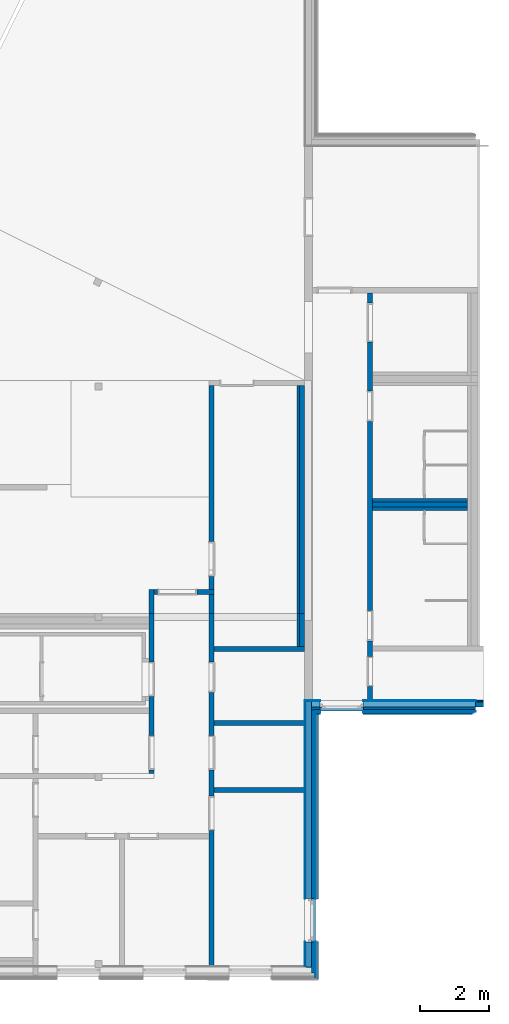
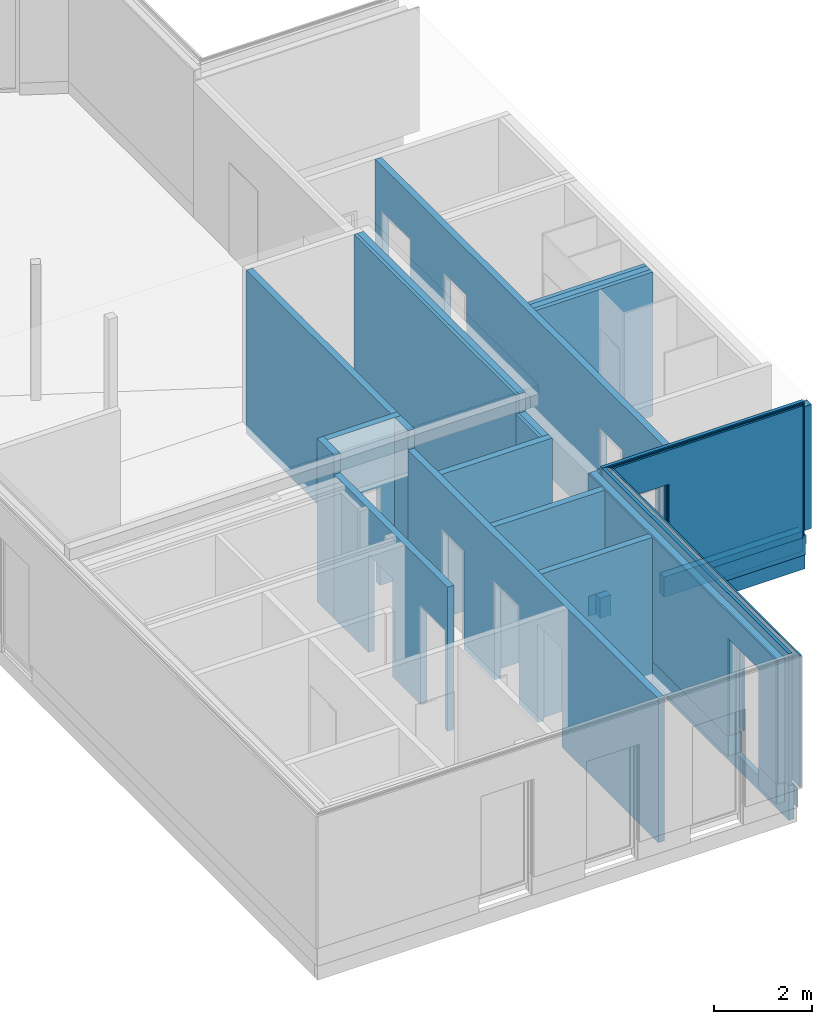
# One storey, part 3 of 23: 36 walls, 30 openings.
"""IFC4 building model written with IfcOpenShell, lengths in metres."""

import ifcopenshell
import ifcopenshell.guid

model = None  # the IFC model being written
_history = None  # IfcOwnerHistory: only IFC2X3 demands one
_inside = {}  # id of a spatial element -> (the spatial element, [elements in it])
_under = {}  # id of a project, library or spatial element -> (it, [spatial elements below it])
_declared = {}  # id of a project -> (the project, [libraries it declares])
_typed = {}  # id of a type object -> (the type object, [elements of that type])
_made_of = {}  # id of a material, layer set ... -> (it, [elements and type objects made of it])


def new_model(schema):
    """Start an empty IFC model of exactly this schema.

    Asked for "IFC4X3", IfcOpenShell would pick the latest addendum, in which some entities
    have other attributes; the version numbers below select the first issue.
    IFC2X3 requires an IfcOwnerHistory on every rooted entity: one is made here for all.
    """
    global model, _history
    if schema == "IFC4X3":
        model = ifcopenshell.file(schema_version=(4, 3, 0, 0))
    else:
        model = ifcopenshell.file(schema=schema)
    _inside.clear()
    _under.clear()
    _declared.clear()
    _typed.clear()
    _made_of.clear()
    _history = None
    if model.schema == "IFC2X3":
        org = make("IfcOrganization", Name="unknown")
        user = make(
            "IfcPersonAndOrganization",
            ThePerson=make("IfcPerson", FamilyName="unknown"),
            TheOrganization=org,
        )
        app = make(
            "IfcApplication",
            ApplicationDeveloper=org,
            Version="unknown",
            ApplicationFullName="unknown",
            ApplicationIdentifier="unknown",
        )
        _history = make(
            "IfcOwnerHistory",
            OwningUser=user,
            OwningApplication=app,
            ChangeAction="ADDED",
            CreationDate=0,
        )
    return model


def make(cls, **values):
    """One entity of the class cls with the attributes given. An attribute that is None is left unset."""
    return model.create_entity(
        cls, **{name: value for name, value in values.items() if value is not None}
    )


def entity(cls, *values):
    """Any entity or typed value of the class cls, its attributes in the order of the schema. None: left unset."""
    e = model.create_entity(cls)
    for i, value in enumerate(values):
        if value is not None:
            e[i] = value
    return e


def rooted(cls, **values):
    """An entity with a GlobalId (a new one), such as an element, a storey or a relation."""
    return make(cls, GlobalId=ifcopenshell.guid.new(), OwnerHistory=_history, **values)


def si_unit(unit_type, name, prefix=None):
    """IfcSIUnit, for example si_unit("LENGTHUNIT", "METRE", prefix="MILLI")."""
    return make("IfcSIUnit", UnitType=unit_type, Prefix=prefix, Name=name)


def converted_unit(unit_type, name, factor, base, dimensions=None, offset=None):
    """IfcConversionBasedUnit, such as the inch: factor (a typed value) times the base unit."""
    return make(
        "IfcConversionBasedUnit"
        if offset is None
        else "IfcConversionBasedUnitWithOffset",
        ConversionOffset=offset,
        Dimensions=None
        if dimensions is None
        else entity("IfcDimensionalExponents", *dimensions),
        UnitType=unit_type,
        Name=name,
        ConversionFactor=make(
            "IfcMeasureWithUnit", ValueComponent=factor, UnitComponent=base
        ),
    )


def derived_unit(unit_type, elements):
    """IfcDerivedUnit: a product of units, each with its exponent."""
    return make(
        "IfcDerivedUnit",
        Elements=[
            make("IfcDerivedUnitElement", Unit=unit, Exponent=power)
            for unit, power in elements
        ],
        UnitType=unit_type,
    )


def assignment(units):
    """IfcUnitAssignment: the units of a project."""
    return None if units is None else make("IfcUnitAssignment", Units=units)


def point(xyz):
    """IfcCartesianPoint."""
    return None if xyz is None else make("IfcCartesianPoint", Coordinates=xyz)


def direction(xyz):
    """IfcDirection."""
    return None if xyz is None else make("IfcDirection", DirectionRatios=xyz)


def frame(location, z_axis=None, x_axis=None):
    """IfcAxis2Placement3D, a coordinate frame: its origin and axes. An axis left out is left unset."""
    return make(
        "IfcAxis2Placement3D",
        Location=point(location),
        Axis=direction(z_axis),
        RefDirection=direction(x_axis),
    )


def frame_2d(location, x_axis=None):
    """IfcAxis2Placement2D, a coordinate frame in the plane: its origin and x axis."""
    return make(
        "IfcAxis2Placement2D", Location=point(location), RefDirection=direction(x_axis)
    )


def origin():
    """The frame at (0, 0, 0) with its axes left unset."""
    return frame((0.0, 0.0, 0.0))


def origin_with_axes():
    """The frame at (0, 0, 0) with the z axis (0, 0, 1) and the x axis (1, 0, 0) written out."""
    return frame((0.0, 0.0, 0.0), z_axis=(0.0, 0.0, 1.0), x_axis=(1.0, 0.0, 0.0))


def place(relative_to, where):
    """IfcLocalPlacement: puts the frame where relative to a parent placement (None: the world)."""
    return make(
        "IfcLocalPlacement", PlacementRelTo=relative_to, RelativePlacement=where
    )


def context(
    kind, dimensions, precision=None, world=None, true_north=None, identifier=None
):
    """IfcGeometricRepresentationContext, for example the 3D "Model" context."""
    return make(
        "IfcGeometricRepresentationContext",
        ContextIdentifier=identifier,
        ContextType=kind,
        CoordinateSpaceDimension=dimensions,
        Precision=precision,
        WorldCoordinateSystem=world,
        TrueNorth=true_north,
    )


def subcontext(parent, identifier, kind, view, scale=None):
    """IfcGeometricRepresentationSubContext, for example "Body" below "Model"."""
    return make(
        "IfcGeometricRepresentationSubContext",
        ContextIdentifier=identifier,
        ContextType=kind,
        ParentContext=parent,
        TargetScale=scale,
        TargetView=view,
    )


def project(units=None, contexts=None):
    """IfcProject with its units and contexts."""
    return rooted(
        "IfcProject",
        Name="project",
        RepresentationContexts=contexts,
        UnitsInContext=assignment(units),
    )


def spatial(cls, under=None, at=None, **own):
    """A site, building, storey or space (cls), placed at a placement, below another one or the project."""
    s = rooted(cls, ObjectPlacement=at, **own)
    if under is not None:
        _under.setdefault(under.id(), (under, []))[1].append(s)
    return s


def polyline(points):
    """IfcPolyline through the points."""
    return make("IfcPolyline", Points=[point(p) for p in points])


def profile(cls, at=None, kind="AREA", **sizes):
    """A parametric profile (cls). Its sizes go by their IFC names, for example OverallWidth=200.0."""
    return make(cls, ProfileType=kind, Position=at, **sizes)


def rectangle(**sizes):
    """IfcRectangleProfileDef."""
    return profile("IfcRectangleProfileDef", **sizes)


def outline(outer, holes=None, kind="AREA"):
    """IfcArbitraryClosedProfileDef: a profile drawn as a closed curve; with holes, ...WithVoids."""
    if holes is None:
        return make("IfcArbitraryClosedProfileDef", ProfileType=kind, OuterCurve=outer)
    return make(
        "IfcArbitraryProfileDefWithVoids",
        ProfileType=kind,
        OuterCurve=outer,
        InnerCurves=holes,
    )


def extrude(swept, where, along, depth):
    """IfcExtrudedAreaSolid: the profile swept, set in the frame where, extruded along a direction by depth."""
    return make(
        "IfcExtrudedAreaSolid",
        SweptArea=swept,
        Position=where,
        ExtrudedDirection=direction(along),
        Depth=depth,
    )


def shape(context_of_items, identifier, shape_type, items):
    """IfcShapeRepresentation: the items that make up one representation, for example the "Body"."""
    return make(
        "IfcShapeRepresentation",
        ContextOfItems=context_of_items,
        RepresentationIdentifier=identifier,
        RepresentationType=shape_type,
        Items=items,
    )


def material(Name=None, Category=None):
    """IfcMaterial."""
    return make("IfcMaterial", Name=Name, Category=Category)


def made_of(thing, what):
    """Note that an element or type object is made of a material, layer set ...; save() writes the relation."""
    if what is not None:
        _made_of.setdefault(what.id(), (what, []))[1].append(thing)
    return thing


def element(
    cls,
    number,
    at=None,
    inside=None,
    cuts=None,
    type_object=None,
    material=None,
    context=None,
    identifier="Body",
    shape_type=None,
    held_by="IfcProductDefinitionShape",
    body=None,
    shapes=None,
    **own,
):
    """One element of the class cls, such as IfcWall. Its Tag is "e" and its number.

    at: its placement. inside: the storey or other place that contains it. cuts: it is an
    opening in that element (IfcRelVoidsElement). A single representation is given by context,
    identifier, shape_type and body (its items); several are given by shapes. held_by: the class
    of the entity that holds the representations. save() writes the other relations.
    """
    e = rooted(cls, Tag="e%d" % number, ObjectPlacement=at, **own)
    if body is not None:
        shapes = [shape(context, identifier, shape_type, body)]
    if shapes is not None:
        e.Representation = make(held_by, Representations=shapes)
    if inside is not None:
        _inside.setdefault(inside.id(), (inside, []))[1].append(e)
    if cuts is not None:
        rooted(
            "IfcRelVoidsElement", RelatingBuildingElement=cuts, RelatedOpeningElement=e
        )
    if type_object is not None:
        _typed.setdefault(type_object.id(), (type_object, []))[1].append(e)
    return made_of(e, material)


def aggregate(whole, parts):
    """IfcRelAggregates: a whole, such as a stair, and the parts it consists of."""
    return rooted("IfcRelAggregates", RelatingObject=whole, RelatedObjects=parts)


def save(model, path):
    """Write the relations noted so far, then the file.

    IfcRelAggregates (storeys below a building ...), IfcRelContainedInSpatialStructure (elements
    in a storey), IfcRelDefinesByType, IfcRelAssociatesMaterial and IfcRelDeclares: one each for
    every whole, place, type object, material and project.
    """
    for whole, parts in _under.values():
        aggregate(whole, parts)
    for where, things in _inside.values():
        rooted(
            "IfcRelContainedInSpatialStructure",
            RelatedElements=things,
            RelatingStructure=where,
        )
    for kind, things in _typed.values():
        rooted("IfcRelDefinesByType", RelatedObjects=things, RelatingType=kind)
    for what, things in _made_of.values():
        rooted("IfcRelAssociatesMaterial", RelatedObjects=things, RelatingMaterial=what)
    for by, libraries in _declared.values():
        rooted("IfcRelDeclares", RelatingContext=by, RelatedDefinitions=libraries)
    model.write(path)


model = new_model("IFC4")

# Units and contexts
model_context = context("Model", 3, precision=1e-05, world=origin())
body_context = subcontext(model_context, "Body", "Model", "MODEL_VIEW")
ifc_project = project(units=[si_unit("LENGTHUNIT", "METRE"), si_unit("AREAUNIT", "SQUARE_METRE"), si_unit("VOLUMEUNIT", "CUBIC_METRE"), si_unit("MASSUNIT", "GRAM", prefix="KILO"), converted_unit("PLANEANGLEUNIT", "DEGREE", entity("IfcPlaneAngleMeasure", 0.0174532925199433), si_unit("PLANEANGLEUNIT", "RADIAN"), dimensions=[0, 0, 0, 0, 0, 0, 0]), derived_unit("THERMALTRANSMITTANCEUNIT", [(si_unit("POWERUNIT", "WATT"), 1), (si_unit("THERMODYNAMICTEMPERATUREUNIT", "KELVIN"), -1), (si_unit("LENGTHUNIT", "METRE"), -2)]), derived_unit("VOLUMETRICFLOWRATEUNIT", [(si_unit("LENGTHUNIT", "METRE"), 3), (converted_unit("TIMEUNIT", "hour", entity("IfcTimeMeasure", 3600.0), si_unit("TIMEUNIT", "SECOND"), dimensions=[0, 0, 1, 0, 0, 0, 0]), -1), (si_unit("LENGTHUNIT", "METRE"), -1)])], contexts=[model_context])

# Site, building, storey
site_placement = place(None, origin())
site = spatial("IfcSite", under=ifc_project, at=site_placement, Name="Psychiatrie Neubau Wunstorf", CompositionType="ELEMENT")
building_placement = place(site_placement, origin())
building = spatial("IfcBuilding", under=site, at=building_placement, Name="Neubau H1 Sozialzentrum", CompositionType="ELEMENT")
storey_placement = place(building_placement, frame((0.0, 0.0, 0.7)))
storey = spatial("IfcBuildingStorey", under=building, at=storey_placement, Name="H1 Ebene 0", CompositionType="ELEMENT", Elevation=0.7)

# Wall, opening
ifc_material_1 = material(Name="WA-LB")
wall_1_placement = place(storey_placement, frame((-5.16652746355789, 11.9562464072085, 0.3), z_axis=(0.0, 0.0, 1.0), x_axis=(3.02741713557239e-07, -0.999999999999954, 0.0)))
wall_1 = element("IfcWall", 1, at=wall_1_placement, inside=storey, material=ifc_material_1, context=body_context, shape_type="SweptSolid", body=[
    extrude(outline(polyline([(-7.69392504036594, 2.32927205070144e-06), (0.0, 2.32927205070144e-06), (1.08994292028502e-08, 0.036002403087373), (-7.69392502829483, 0.0360022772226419), (-7.69392504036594, 2.32927205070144e-06)])), frame((7.69392504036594, -2.32927205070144e-06, 0.0), z_axis=(0.0, 0.0, 1.0), x_axis=(1.0, 0.0, 0.0)), (0.0, 0.0, 1.0), 3.1),
])
opening_1_placement = place(wall_1_placement, frame((5.73000000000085, 0.0, -0.5), z_axis=(2.52637124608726e-14, 1.0, 0.0), x_axis=(0.0, 0.0, 1.0)))
element("IfcOpeningElement", 2, at=opening_1_placement, cuts=wall_1, Name="Türöffnung", ObjectType="Opening", context=body_context, shape_type="SweptSolid", body=[
    extrude(outline(polyline([(2.95, 1.26), (2.95, 0.0), (0.0, 0.0), (0.0, 1.26), (2.95, 1.26)])), origin_with_axes(), (0.0, 0.0, 1.0), 0.0360000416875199),
])

ifc_material_2 = material(Name="WA-HD")
wall_2_placement = place(storey_placement, frame((-5.13052750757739, 11.9562464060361, 0.3), z_axis=(0.0, 0.0, 1.0), x_axis=(3.18028107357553e-07, -0.999999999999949, 0.0)))
wall_2 = element("IfcWall", 3, at=wall_2_placement, inside=storey, material=ifc_material_2, context=body_context, shape_type="SweptSolid", body=[
    extrude(outline(polyline([(-7.72992503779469, 2.45833342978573e-06), (0.0, 2.45833342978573e-06), (5.08853048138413e-08, 0.160002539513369), (-7.72992498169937, 0.160002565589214), (-7.72992503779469, 2.45833342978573e-06)])), frame((7.72992503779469, -2.45833342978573e-06, 0.0), z_axis=(0.0, 0.0, 1.0), x_axis=(1.0, 0.0, 0.0)), (0.0, 0.0, 1.0), 3.1),
])
opening_2_placement = place(wall_2_placement, frame((5.72999998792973, 0.0, -0.5), z_axis=(0.0, 1.0, 0.0), x_axis=(0.0, 0.0, 1.0)))
element("IfcOpeningElement", 4, at=opening_2_placement, cuts=wall_2, Name="Türöffnung", ObjectType="Opening", context=body_context, shape_type="SweptSolid", body=[
    extrude(outline(polyline([(2.95, 1.26), (2.95, 0.0), (0.0, 0.0), (0.0, 1.26), (2.95, 1.26)])), origin_with_axes(), (0.0, 0.0, 1.0), 0.160000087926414),
])

ifc_material_3 = material(Name="WA-DL")
wall_3_placement = place(storey_placement, frame((-4.97052732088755, 11.7162464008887, 0.3), z_axis=(0.0, 0.0, 1.0), x_axis=(3.14002791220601e-07, -0.999999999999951, 0.0)))
wall_3 = element("IfcWall", 5, at=wall_3_placement, inside=storey, material=ifc_material_3, context=body_context, shape_type="SweptSolid", body=[
    extrude(outline(polyline([(-7.64992435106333, 2.40209759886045e-06), (0.0, 2.40209759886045e-06), (2.51209874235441e-08, 0.080002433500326), (-7.64992432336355, 0.08000246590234), (-7.64992435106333, 2.40209759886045e-06)])), frame((7.64992435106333, -2.40209759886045e-06, 0.0), z_axis=(0.0, 0.0, 1.0), x_axis=(1.0, 0.0, 0.0)), (0.0, 0.0, 1.0), 3.3),
])
opening_3_placement = place(wall_3_placement, frame((5.48999993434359, 0.0, -0.5), z_axis=(0.0, 1.0, 0.0), x_axis=(0.0, 0.0, 1.0)))
element("IfcOpeningElement", 6, at=opening_3_placement, cuts=wall_3, Name="Türöffnung", ObjectType="Opening", context=body_context, shape_type="SweptSolid", body=[
    extrude(outline(polyline([(2.95, 1.26), (2.95, 0.0), (0.0, 0.0), (0.0, 1.26), (2.95, 1.26)])), origin_with_axes(), (0.0, 0.0, 1.0), 0.0800000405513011),
])

ifc_material_4 = material(Name="WA-HS")
wall_4_placement = place(storey_placement, frame((-4.80652716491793, 11.5902463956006, 0.3), z_axis=(0.0, 0.0, 1.0), x_axis=(3.10154807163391e-07, -0.999999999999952, 0.0)))
wall_4 = element("IfcWall", 7, at=wall_4_placement, inside=storey, material=ifc_material_4, context=body_context, shape_type="SweptSolid", body=[
    extrude(outline(polyline([(-7.68792363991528, 2.38444647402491e-06), (0.0, 2.38444647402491e-06), (1.30272384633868e-08, 0.0420023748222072), (-7.68792362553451, 0.0420024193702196), (-7.68792363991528, 2.38444647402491e-06)])), frame((7.68792363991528, -2.38444647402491e-06, 0.0), z_axis=(0.0, 0.0, 1.0), x_axis=(1.0, 0.0, 0.0)), (0.0, 0.0, 1.0), 3.3),
])
opening_4_placement = place(wall_4_placement, frame((5.36399987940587, 0.0, -0.5), z_axis=(0.0, 1.0, 0.0), x_axis=(0.0, 0.0, 1.0)))
element("IfcOpeningElement", 8, at=opening_4_placement, cuts=wall_4, Name="Türöffnung", ObjectType="Opening", context=body_context, shape_type="SweptSolid", body=[
    extrude(outline(polyline([(2.95, 1.26), (2.95, 0.0), (0.0, 0.0), (0.0, 1.26), (2.95, 1.26)])), origin_with_axes(), (0.0, 0.0, 1.0), 0.0420000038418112),
])

ifc_material_5 = material(Name="WA-LB")
wall_5_placement = place(storey_placement, frame((0.0299999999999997, 11.9922462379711, 0.3), z_axis=(0.0, 0.0, 1.0), x_axis=(-0.999999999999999, 3.25674105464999e-08, 0.0)))
wall_5 = element("IfcWall", 9, at=wall_5_placement, inside=storey, material=ifc_material_5, context=body_context, shape_type="SweptSolid", body=[
    extrude(rectangle(XDim=4.96452529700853, YDim=0.0359999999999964, at=frame_2d((2.48226264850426, 0.0179999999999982), x_axis=(1.0, 0.0))), origin_with_axes(), (0.0, 0.0, 1.0), 3.1),
])
opening_5_placement = place(wall_5_placement, frame((4.74452711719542, 0.0359999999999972, -0.5), z_axis=(-7.52606865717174e-10, -1.0, 0.0), x_axis=(0.0, 0.0, 1.0)))
element("IfcOpeningElement", 10, at=opening_5_placement, cuts=wall_5, Name="Türöffnung", ObjectType="Opening", context=body_context, shape_type="SweptSolid", body=[
    extrude(outline(polyline([(2.95, 1.26000000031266), (2.95, 0.0), (0.0, 0.0), (0.0, 1.26000000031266), (2.95, 1.26000000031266)])), origin_with_axes(), (0.0, 0.0, 1.0), 0.0359999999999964),
])

ifc_material_6 = material(Name="WA-HD")
wall_6_placement = place(storey_placement, frame((0.0299999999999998, 11.9562462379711, 0.3), z_axis=(0.0, 0.0, 1.0), x_axis=(-0.999999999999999, 3.25696625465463e-08, 0.0)))
wall_6 = element("IfcWall", 11, at=wall_6_placement, inside=storey, material=ifc_material_6, context=body_context, shape_type="SweptSolid", body=[
    extrude(rectangle(XDim=5.0005274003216, YDim=0.160000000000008, at=frame_2d((2.5002637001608, 0.080000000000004), x_axis=(1.0, 0.0))), origin_with_axes(), (0.0, 0.0, 1.0), 3.1),
])
opening_6_placement = place(wall_6_placement, frame((4.74452711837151, 0.160000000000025, -0.5), z_axis=(-7.50344497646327e-10, -1.0, 0.0), x_axis=(0.0, 0.0, 1.0)))
element("IfcOpeningElement", 12, at=opening_6_placement, cuts=wall_6, Name="Türöffnung", ObjectType="Opening", context=body_context, shape_type="SweptSolid", body=[
    extrude(outline(polyline([(2.95, 1.26000000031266), (2.95, 0.0), (0.0, 0.0), (0.0, 1.26000000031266), (2.95, 1.26000000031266)])), origin_with_axes(), (0.0, 0.0, 1.0), 0.160000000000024),
])

ifc_material_7 = material(Name="WA-DL")
wall_7_placement = place(storey_placement, frame((-0.19, 11.7962462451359, 0.3), z_axis=(0.0, 0.0, 1.0), x_axis=(-0.999999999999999, 3.25806610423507e-08, 0.0)))
wall_7 = element("IfcWall", 13, at=wall_7_placement, inside=storey, material=ifc_material_7, context=body_context, shape_type="SweptSolid", body=[
    extrude(rectangle(XDim=4.78052734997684, YDim=0.0800000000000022, at=frame_2d((2.39026367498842, 0.0400000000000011), x_axis=(1.0, 0.0))), origin_with_axes(), (0.0, 0.0, 1.0), 3.3),
])
opening_7_placement = place(wall_7_placement, frame((4.52452712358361, 0.0799999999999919, -0.5), z_axis=(-7.39350980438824e-10, -1.0, 0.0), x_axis=(0.0, 0.0, 1.0)))
element("IfcOpeningElement", 14, at=opening_7_placement, cuts=wall_7, Name="Türöffnung", ObjectType="Opening", context=body_context, shape_type="SweptSolid", body=[
    extrude(outline(polyline([(2.95, 1.26000000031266), (2.95, 0.0), (0.0, 0.0), (0.0, 1.26000000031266), (2.95, 1.26000000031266)])), origin_with_axes(), (0.0, 0.0, 1.0), 0.0799999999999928),
])

ifc_material_8 = material(Name="WA-LB")
wall_8_placement = place(storey_placement, frame((-0.2, 11.7162462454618, 0.3), z_axis=(0.0, 0.0, 1.0), x_axis=(-0.999999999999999, 3.25863785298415e-08, 0.0)))
wall_8 = element("IfcWall", 15, at=wall_8_placement, inside=storey, material=ifc_material_8, context=body_context, shape_type="SweptSolid", body=[
    extrude(rectangle(XDim=4.69052725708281, YDim=0.0359999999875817, at=frame_2d((2.3452636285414, 0.0179999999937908), x_axis=(1.0, 0.0))), origin_with_axes(), (0.0, 0.0, 1.0), 3.3),
])
opening_8_placement = place(wall_8_placement, frame((4.51452712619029, 0.0359999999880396, -0.5), z_axis=(-7.33659059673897e-10, -1.0, 0.0), x_axis=(0.0, 0.0, 1.0)))
element("IfcOpeningElement", 16, at=opening_8_placement, cuts=wall_8, Name="Türöffnung", ObjectType="Opening", context=body_context, shape_type="SweptSolid", body=[
    extrude(outline(polyline([(2.95, 1.26000000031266), (2.95, 0.0), (0.0, 0.0), (0.0, 1.26000000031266), (2.95, 1.26000000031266)])), origin_with_axes(), (0.0, 0.0, 1.0), 0.0359999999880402),
])

ifc_material_9 = material(Name="WA-KL")
wall_9_placement = place(storey_placement, frame((-0.225, 11.6802462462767, 0.3), z_axis=(0.0, 0.0, 1.0), x_axis=(-0.999999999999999, 3.25889958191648e-08, 0.0)))
wall_9 = element("IfcWall", 17, at=wall_9_placement, inside=storey, material=ifc_material_9, context=body_context, shape_type="SweptSolid", body=[
    extrude(rectangle(XDim=4.62952721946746, YDim=0.0239999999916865, at=frame_2d((2.31476360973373, 0.0119999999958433), x_axis=(1.0, 0.0))), origin_with_axes(), (0.0, 0.0, 1.0), 3.3),
])
opening_9_placement = place(wall_9_placement, frame((4.48952712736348, 0.0239999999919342, -0.5), z_axis=(-7.31044262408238e-10, -1.0, 0.0), x_axis=(0.0, 0.0, 1.0)))
element("IfcOpeningElement", 18, at=opening_9_placement, cuts=wall_9, Name="Türöffnung", ObjectType="Opening", context=body_context, shape_type="SweptSolid", body=[
    extrude(outline(polyline([(2.95, 1.26000000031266), (2.95, 0.0), (0.0, 0.0), (0.0, 1.26000000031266), (2.95, 1.26000000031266)])), origin_with_axes(), (0.0, 0.0, 1.0), 0.0239999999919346),
])

ifc_material_10 = material(Name="WA-TL")
wall_10_placement = place(storey_placement, frame((-0.25, 11.6562462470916, 0.3), z_axis=(0.0, 0.0, 1.0), x_axis=(-0.999999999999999, 3.25907732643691e-08, 0.0)))
wall_10 = element("IfcWall", 19, at=wall_10_placement, inside=storey, material=ifc_material_10, context=body_context, shape_type="SweptSolid", body=[
    extrude(rectangle(XDim=4.58052719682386, YDim=0.0239999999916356, at=frame_2d((2.29026359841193, 0.0119999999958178), x_axis=(1.0, 0.0))), origin_with_axes(), (0.0, 0.0, 1.0), 3.3),
])
opening_10_placement = place(wall_10_placement, frame((4.46452712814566, 0.0239999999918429, -0.5), z_axis=(-7.29263168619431e-10, -1.0, 0.0), x_axis=(0.0, 0.0, 1.0)))
element("IfcOpeningElement", 20, at=opening_10_placement, cuts=wall_10, Name="Türöffnung", ObjectType="Opening", context=body_context, shape_type="SweptSolid", body=[
    extrude(outline(polyline([(2.95, 1.26000000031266), (2.95, 0.0), (0.0, 0.0), (0.0, 1.26000000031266), (2.95, 1.26000000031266)])), origin_with_axes(), (0.0, 0.0, 1.0), 0.0239999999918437),
])

ifc_material_11 = material(Name="WA-HS")
wall_11_placement = place(storey_placement, frame((-0.292, 11.6322462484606, 0.3), z_axis=(0.0, 0.0, 1.0), x_axis=(-0.999999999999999, 3.25925683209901e-08, 0.0)))
wall_11 = element("IfcWall", 21, at=wall_11_placement, inside=storey, material=ifc_material_11, context=body_context, shape_type="SweptSolid", body=[
    extrude(rectangle(XDim=4.51452718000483, YDim=0.0420000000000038, at=frame_2d((2.25726359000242, 0.0210000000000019), x_axis=(1.0, 0.0))), origin_with_axes(), (0.0, 0.0, 1.0), 3.3),
])
opening_11_placement = place(wall_11_placement, frame((4.42252712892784, 0.0420000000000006, -0.5), z_axis=(-7.27444178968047e-10, -1.0, 0.0), x_axis=(0.0, 0.0, 1.0)))
element("IfcOpeningElement", 22, at=opening_11_placement, cuts=wall_11, Name="Türöffnung", ObjectType="Opening", context=body_context, shape_type="SweptSolid", body=[
    extrude(outline(polyline([(2.95, 1.26000000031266), (2.95, 0.0), (0.0, 0.0), (0.0, 1.26000000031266), (2.95, 1.26000000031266)])), origin_with_axes(), (0.0, 0.0, 1.0), 0.042),
])

ifc_material_12 = material(Name="WA-LB")
wall_12_placement = place(storey_placement, frame((-0.19, 11.9922463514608, -0.2), z_axis=(0.0, 0.0, 1.0), x_axis=(-1.0, 0.0, 0.0)))
wall_12 = element("IfcWall", 23, at=wall_12_placement, inside=storey, material=ifc_material_12, context=body_context, shape_type="SweptSolid", body=[
    extrude(rectangle(XDim=4.95552559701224, YDim=0.0209999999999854, at=frame_2d((2.47776279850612, 0.0104999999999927), x_axis=(1.0, 0.0))), origin_with_axes(), (0.0, 0.0, 1.0), 0.5),
])
opening_12_placement = place(wall_12_placement, frame((4.52452711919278, 0.0209999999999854, 0.0), z_axis=(0.0, -1.0, 0.0), x_axis=(0.0, 0.0, 1.0)))
element("IfcOpeningElement", 24, at=opening_12_placement, cuts=wall_12, Name="Wanddurchbruch", ObjectType="Opening", context=body_context, shape_type="SweptSolid", body=[
    extrude(outline(polyline([(0.5, 1.26000000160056), (0.5, 0.0), (0.0, 0.0), (0.0, 1.26000000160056), (0.5, 1.26000000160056)])), origin_with_axes(), (0.0, 0.0, 1.0), 0.0209999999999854),
])

ifc_material_13 = material(Name="WA-STB")
wall_13_placement = place(storey_placement, frame((-0.19, 11.9712463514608, -0.2), z_axis=(0.0, 0.0, 1.0), x_axis=(-1.0, 0.0, 0.0)))
wall_13 = element("IfcWall", 25, at=wall_13_placement, inside=storey, material=ifc_material_13, context=body_context, shape_type="SweptSolid", body=[
    extrude(rectangle(XDim=4.78052559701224, YDim=0.175, at=frame_2d((2.39026279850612, 0.0875), x_axis=(1.0, 0.0))), origin_with_axes(), (0.0, 0.0, 1.0), 0.5),
])
opening_13_placement = place(wall_13_placement, frame((4.52452711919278, 0.175, 0.0), z_axis=(0.0, -1.0, 0.0), x_axis=(0.0, 0.0, 1.0)))
element("IfcOpeningElement", 26, at=opening_13_placement, cuts=wall_13, Name="Wanddurchbruch", ObjectType="Opening", context=body_context, shape_type="SweptSolid", body=[
    extrude(outline(polyline([(0.5, 1.26000000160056), (0.5, 0.0), (0.0, 0.0), (0.0, 1.26000000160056), (0.5, 1.26000000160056)])), origin_with_axes(), (0.0, 0.0, 1.0), 0.175),
])

ifc_material_14 = material(Name="WA-DE")
wall_14_placement = place(storey_placement, frame((-0.19, 11.7962463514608, -0.56), z_axis=(0.0, 0.0, 1.0), x_axis=(-1.0, 0.0, 0.0)))
wall_14 = element("IfcWall", 27, at=wall_14_placement, inside=storey, material=ifc_material_14, context=body_context, shape_type="SweptSolid", body=[
    extrude(rectangle(XDim=4.66052559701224, YDim=0.120000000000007, at=frame_2d((2.33026279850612, 0.0600000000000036), x_axis=(1.0, 0.0))), origin_with_axes(), (0.0, 0.0, 1.0), 0.86),
])
opening_14_placement = place(wall_14_placement, frame((4.52452711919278, 0.120000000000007, 0.36), z_axis=(0.0, -1.0, 0.0), x_axis=(0.0, 0.0, 1.0)))
element("IfcOpeningElement", 28, at=opening_14_placement, cuts=wall_14, Name="Wanddurchbruch", ObjectType="Opening", context=body_context, shape_type="SweptSolid", body=[
    extrude(outline(polyline([(0.5, 1.26000000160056), (0.5, 0.0), (0.0, 0.0), (0.0, 1.26000000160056), (0.5, 1.26000000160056)])), origin_with_axes(), (0.0, 0.0, 1.0), 0.120000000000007),
])

ifc_material_15 = material(Name="WA-LB")
wall_15_placement = place(storey_placement, frame((-0.19, 11.6762463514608, -0.2), z_axis=(0.0, 0.0, 1.0), x_axis=(-1.0, 0.0, 0.0)))
wall_15 = element("IfcWall", 29, at=wall_15_placement, inside=storey, material=ifc_material_15, context=body_context, shape_type="SweptSolid", body=[
    extrude(rectangle(XDim=4.64552559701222, YDim=0.0150000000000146, at=frame_2d((2.32276279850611, 0.00750000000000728), x_axis=(1.0, 0.0))), origin_with_axes(), (0.0, 0.0, 1.0), 0.5),
])
opening_15_placement = place(wall_15_placement, frame((4.52452711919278, 0.0150000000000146, 0.0), z_axis=(0.0, -1.0, 0.0), x_axis=(0.0, 0.0, 1.0)))
element("IfcOpeningElement", 30, at=opening_15_placement, cuts=wall_15, Name="Wanddurchbruch", ObjectType="Opening", context=body_context, shape_type="SweptSolid", body=[
    extrude(outline(polyline([(0.5, 1.26000000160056), (0.5, 0.0), (0.0, 0.0), (0.0, 1.26000000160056), (0.5, 1.26000000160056)])), origin_with_axes(), (0.0, 0.0, 1.0), 0.0150000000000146),
])

ifc_material_16 = material(Name="WA-LB")
wall_16_placement = place(storey_placement, frame((-5.16652559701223, 11.9922463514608, -0.2), z_axis=(0.0, 0.0, 1.0), x_axis=(0.0, -1.0, 0.0)))
wall_16 = element("IfcWall", 31, at=wall_16_placement, inside=storey, material=ifc_material_16, context=body_context, shape_type="SweptSolid", body=[
    extrude(rectangle(XDim=7.72992430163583, YDim=0.0209999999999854, at=frame_2d((3.86496215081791, 0.0104999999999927), x_axis=(1.0, 0.0))), origin_with_axes(), (0.0, 0.0, 1.0), 0.5),
])
opening_16_placement = place(wall_16_placement, frame((7.02599992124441, 0.0209999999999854, 0.0), z_axis=(0.0, -1.0, 0.0), x_axis=(0.0, 0.0, 1.0)))
element("IfcOpeningElement", 32, at=opening_16_placement, cuts=wall_16, Name="Wanddurchbruch", ObjectType="Opening", context=body_context, shape_type="SweptSolid", body=[
    extrude(outline(polyline([(0.5, 1.25999999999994), (0.5, 0.0), (0.0, 0.0), (0.0, 1.25999999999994), (0.5, 1.25999999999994)])), origin_with_axes(), (0.0, 0.0, 1.0), 0.0209999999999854),
])

ifc_material_17 = material(Name="WA-STB")
wall_17_placement = place(storey_placement, frame((-5.14552559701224, 11.9712463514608, -0.2), z_axis=(0.0, 0.0, 1.0), x_axis=(0.0, -1.0, 0.0)))
wall_17 = element("IfcWall", 33, at=wall_17_placement, inside=storey, material=ifc_material_17, context=body_context, shape_type="SweptSolid", body=[
    extrude(rectangle(XDim=7.72992430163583, YDim=0.175, at=frame_2d((3.86496215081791, 0.0875), x_axis=(1.0, 0.0))), origin_with_axes(), (0.0, 0.0, 1.0), 0.5),
])
opening_17_placement = place(wall_17_placement, frame((7.00499992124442, 0.175, 0.0), z_axis=(0.0, -1.0, 0.0), x_axis=(0.0, 0.0, 1.0)))
element("IfcOpeningElement", 34, at=opening_17_placement, cuts=wall_17, Name="Wanddurchbruch", ObjectType="Opening", context=body_context, shape_type="SweptSolid", body=[
    extrude(outline(polyline([(0.5, 1.25999999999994), (0.5, 0.0), (0.0, 0.0), (0.0, 1.25999999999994), (0.5, 1.25999999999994)])), origin_with_axes(), (0.0, 0.0, 1.0), 0.175),
])

ifc_material_18 = material(Name="WA-DE")
wall_18_placement = place(storey_placement, frame((-4.97052559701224, 11.7962463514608, -0.56), z_axis=(0.0, 0.0, 1.0), x_axis=(0.0, -1.0, 0.0)))
wall_18 = element("IfcWall", 35, at=wall_18_placement, inside=storey, material=ifc_material_18, context=body_context, shape_type="SweptSolid", body=[
    extrude(rectangle(XDim=7.72992430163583, YDim=0.120000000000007, at=frame_2d((3.86496215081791, 0.0600000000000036), x_axis=(1.0, 0.0))), origin_with_axes(), (0.0, 0.0, 1.0), 0.86),
])
opening_18_placement = place(wall_18_placement, frame((6.82999992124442, 0.120000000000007, 0.36), z_axis=(0.0, -1.0, 0.0), x_axis=(0.0, 0.0, 1.0)))
element("IfcOpeningElement", 36, at=opening_18_placement, cuts=wall_18, Name="Wanddurchbruch", ObjectType="Opening", context=body_context, shape_type="SweptSolid", body=[
    extrude(outline(polyline([(0.5, 1.25999999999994), (0.5, 0.0), (0.0, 0.0), (0.0, 1.25999999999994), (0.5, 1.25999999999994)])), origin_with_axes(), (0.0, 0.0, 1.0), 0.120000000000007),
])

ifc_material_19 = material(Name="WA-LB")
wall_19_placement = place(storey_placement, frame((-4.85052559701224, 11.6762463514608, -0.2), z_axis=(0.0, 0.0, 1.0), x_axis=(0.0, -1.0, 0.0)))
wall_19 = element("IfcWall", 37, at=wall_19_placement, inside=storey, material=ifc_material_19, context=body_context, shape_type="SweptSolid", body=[
    extrude(rectangle(XDim=7.72992430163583, YDim=0.0150000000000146, at=frame_2d((3.86496215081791, 0.00750000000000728), x_axis=(1.0, 0.0))), origin_with_axes(), (0.0, 0.0, 1.0), 0.5),
])
opening_19_placement = place(wall_19_placement, frame((6.70999992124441, 0.0150000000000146, 0.0), z_axis=(0.0, -1.0, 0.0), x_axis=(0.0, 0.0, 1.0)))
element("IfcOpeningElement", 38, at=opening_19_placement, cuts=wall_19, Name="Wanddurchbruch", ObjectType="Opening", context=body_context, shape_type="SweptSolid", body=[
    extrude(outline(polyline([(0.5, 1.25999999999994), (0.5, 0.0), (0.0, 0.0), (0.0, 1.25999999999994), (0.5, 1.25999999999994)])), origin_with_axes(), (0.0, 0.0, 1.0), 0.0150000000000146),
])

# Wall, openings
ifc_material_20 = material(Name="WI-IW")
wall_20_placement = place(storey_placement, frame((-3.33450147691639, 23.8382445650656, -0.2), z_axis=(0.0, 0.0, 1.0), x_axis=(6.90988818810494e-16, -1.0, 0.0)))
wall_20 = element("IfcWall", 39, at=wall_20_placement, inside=storey, material=ifc_material_20, context=body_context, shape_type="SweptSolid", body=[
    extrude(rectangle(XDim=11.8459982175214, YDim=0.15, at=frame_2d((5.92299910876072, 0.0749999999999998), x_axis=(1.0, 0.0))), origin_with_axes(), (0.0, 0.0, 1.0), 3.6),
])
opening_20_placement = place(wall_20_placement, frame((0.299999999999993, 0.0, 0.0), z_axis=(7.5791225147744e-16, 1.0, 0.0), x_axis=(0.0, 0.0, 1.0)))
element("IfcOpeningElement", 40, at=opening_20_placement, cuts=wall_20, Name="Türöffnung", ObjectType="Opening", context=body_context, shape_type="SweptSolid", body=[
    extrude(outline(polyline([(2.46, 1.135), (2.46, 0.0), (0.0, 0.0), (0.0, 1.135), (2.46, 1.135)])), origin_with_axes(), (0.0, 0.0, 1.0), 0.15),
])
opening_21_placement = place(wall_20_placement, frame((3.73499824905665, 0.15, 0.0), z_axis=(0.0, -1.0, 0.0), x_axis=(0.0, 0.0, 1.0)))
element("IfcOpeningElement", 41, at=opening_21_placement, cuts=wall_20, Name="Türöffnung", ObjectType="Opening", context=body_context, shape_type="SweptSolid", body=[
    extrude(outline(polyline([(2.46, 0.885), (2.46, 0.0), (0.0, 0.0), (0.0, 0.885), (2.46, 0.885)])), origin_with_axes(), (0.0, 0.0, 1.0), 0.15),
])
opening_22_placement = place(wall_20_placement, frame((9.23099824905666, 0.0, 0.0), z_axis=(0.0, 1.0, 0.0), x_axis=(0.0, 0.0, 1.0)))
element("IfcOpeningElement", 42, at=opening_22_placement, cuts=wall_20, Name="Türöffnung", ObjectType="Opening", context=body_context, shape_type="SweptSolid", body=[
    extrude(outline(polyline([(2.46, 0.885), (2.46, 0.0), (0.0, 0.0), (0.0, 0.885), (2.46, 0.885)])), origin_with_axes(), (0.0, 0.0, 1.0), 0.15),
])
opening_23_placement = place(wall_20_placement, frame((10.5659982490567, 0.0, 0.0), z_axis=(0.0, 1.0, 0.0), x_axis=(0.0, 0.0, 1.0)))
element("IfcOpeningElement", 43, at=opening_23_placement, cuts=wall_20, Name="Türöffnung", ObjectType="Opening", context=body_context, shape_type="SweptSolid", body=[
    extrude(outline(polyline([(2.46, 0.885), (2.46, 0.0), (0.0, 0.0), (0.0, 0.885), (2.46, 0.885)])), origin_with_axes(), (0.0, 0.0, 1.0), 0.15),
])

# Walls
ifc_material_21 = material(Name="WI-IW")
wall_21_placement = place(storey_placement, frame((-3.18450147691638, 17.5122463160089, -0.2)))
element("IfcWall", 44, at=wall_21_placement, inside=storey, material=ifc_material_21, context=body_context, shape_type="SweptSolid", body=[
    extrude(rectangle(XDim=2.76350322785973, YDim=0.1, at=frame_2d((1.38175161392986, 0.05), x_axis=(1.0, 0.0))), origin_with_axes(), (0.0, 0.0, 1.0), 3.6),
])
ifc_material_22 = material(Name="Installationsraum")
wall_22_placement = place(storey_placement, frame((-3.18450147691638, 17.6122463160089, -0.2)))
element("IfcWall", 45, at=wall_22_placement, inside=storey, material=ifc_material_22, context=body_context, shape_type="SweptSolid", body=[
    extrude(rectangle(XDim=2.76350322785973, YDim=0.15, at=frame_2d((1.38175161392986, 0.075), x_axis=(1.0, 0.0))), origin_with_axes(), (0.0, 0.0, 1.0), 3.6),
])
ifc_material_23 = material(Name="WI-IW")
wall_23_placement = place(storey_placement, frame((-3.18450147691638, 17.7622463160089, -0.2)))
element("IfcWall", 46, at=wall_23_placement, inside=storey, material=ifc_material_23, context=body_context, shape_type="SweptSolid", body=[
    extrude(rectangle(XDim=2.76350322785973, YDim=0.1, at=frame_2d((1.38175161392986, 0.05), x_axis=(1.0, 0.0))), origin_with_axes(), (0.0, 0.0, 1.0), 3.6),
])
ifc_material_24 = material(Name="WI-IW")
wall_24_placement = place(storey_placement, frame((-7.79152571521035, 9.31239325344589, -0.2), z_axis=(0.0, 0.0, 1.0), x_axis=(0.999999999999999, -4.50156688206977e-08, 0.0)))
element("IfcWall", 47, at=wall_24_placement, inside=storey, material=ifc_material_24, context=body_context, shape_type="SweptSolid", body=[
    extrude(rectangle(XDim=2.62499885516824, YDim=0.14999999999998, at=frame_2d((1.31249942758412, 0.0749999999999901), x_axis=(1.0, 0.0))), origin_with_axes(), (0.0, 0.0, 1.0), 3.6),
])
ifc_material_25 = material(Name="WI-IW")
wall_25_placement = place(storey_placement, frame((-7.79152632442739, 11.2604216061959, -0.2), z_axis=(0.0, 0.0, 1.0), x_axis=(0.999999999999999, -4.50156688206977e-08, 0.0)))
element("IfcWall", 48, at=wall_25_placement, inside=storey, material=ifc_material_25, context=body_context, shape_type="SweptSolid", body=[
    extrude(rectangle(XDim=2.62499885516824, YDim=0.149999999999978, at=frame_2d((1.31249942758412, 0.0749999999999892), x_axis=(1.0, 0.0))), origin_with_axes(), (0.0, 0.0, 1.0), 3.6),
])

# Wall, opening
ifc_material_26 = material(Name="WI-IW")
wall_26_placement = place(storey_placement, frame((-7.79152662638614, 15.212246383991, -0.2), z_axis=(0.0, 0.0, 1.0), x_axis=(-1.0, 0.0, 0.0)))
wall_26 = element("IfcWall", 49, at=wall_26_placement, inside=storey, material=ifc_material_26, context=body_context, shape_type="SweptSolid", body=[
    extrude(rectangle(XDim=1.74813217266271, YDim=0.150000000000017, at=frame_2d((0.874066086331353, 0.0750000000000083), x_axis=(1.0, 0.0))), origin_with_axes(), (0.0, 0.0, 1.0), 4.08),
])
opening_24_placement = place(wall_26_placement, frame((1.64813217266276, 0.15, 0.0), z_axis=(0.0, -1.0, 0.0), x_axis=(0.0, 0.0, 1.0)))
element("IfcOpeningElement", 50, at=opening_24_placement, cuts=wall_26, Name="Türöffnung", ObjectType="Opening", context=body_context, shape_type="SweptSolid", body=[
    extrude(outline(polyline([(2.46, 1.15), (2.46, 0.0), (0.0, 0.0), (0.0, 1.15), (2.46, 1.15)])), origin_with_axes(), (0.0, 0.0, 1.0), 0.15),
])

ifc_material_27 = material(Name="WI-IW")
wall_27_placement = place(storey_placement, frame((-7.94152706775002, 21.1382463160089, -0.2), z_axis=(0.0, 0.0, 1.0), x_axis=(7.4479226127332e-08, -0.999999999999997, 0.0)))
wall_27 = element("IfcWall", 51, at=wall_27_placement, inside=storey, material=ifc_material_27, context=body_context, shape_type="SweptSolid", body=[
    extrude(rectangle(XDim=5.92599993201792, YDim=0.149999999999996, at=frame_2d((2.96299996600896, 0.0749999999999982), x_axis=(1.0, 0.0))), origin_with_axes(), (0.0, 0.0, 1.0), 4.08),
])
opening_25_placement = place(wall_27_placement, frame((5.54600038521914, 0.149999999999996, 0.0), z_axis=(0.0, -1.0, 0.0), x_axis=(0.0, 0.0, 1.0)))
element("IfcOpeningElement", 52, at=opening_25_placement, cuts=wall_27, Name="Türöffnung", ObjectType="Opening", context=body_context, shape_type="SweptSolid", body=[
    extrude(outline(polyline([(2.46, 1.01), (2.46, 0.0), (0.0, 0.0), (0.0, 1.01), (2.46, 1.01)])), origin_with_axes(), (0.0, 0.0, 1.0), 0.149999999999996),
])

# Walls
ifc_material_28 = material(Name="WI-IW")
wall_28_placement = place(storey_placement, frame((-7.79152628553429, 13.4104215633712, -0.2)))
element("IfcWall", 53, at=wall_28_placement, inside=storey, material=ifc_material_28, context=body_context, shape_type="SweptSolid", body=[
    extrude(rectangle(XDim=2.62500098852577, YDim=0.15, at=frame_2d((1.31250049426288, 0.075), x_axis=(1.0, 0.0))), origin_with_axes(), (0.0, 0.0, 1.0), 3.6),
])
ifc_material_29 = material(Name="WI-IW")
wall_29_placement = place(storey_placement, frame((-5.39152529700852, 21.1382463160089, -0.2), z_axis=(0.0, 0.0, 1.0), x_axis=(0.0, -1.0, 0.0)))
element("IfcWall", 54, at=wall_29_placement, inside=storey, material=ifc_material_29, context=body_context, shape_type="SweptSolid", body=[
    extrude(rectangle(XDim=6.62600005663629, YDim=0.075, at=frame_2d((3.31300002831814, 0.0375), x_axis=(1.0, 0.0))), origin_with_axes(), (0.0, 0.0, 1.0), 4.08),
])
ifc_material_30 = material(Name="Installationsraum")
wall_30_placement = place(storey_placement, frame((-5.31652529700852, 21.1382463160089, -0.2), z_axis=(0.0, 0.0, 1.0), x_axis=(0.0, -1.0, 0.0)))
element("IfcWall", 55, at=wall_30_placement, inside=storey, material=ifc_material_30, context=body_context, shape_type="SweptSolid", body=[
    extrude(rectangle(XDim=6.62600005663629, YDim=0.15, at=frame_2d((3.31300002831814, 0.075), x_axis=(1.0, 0.0))), origin_with_axes(), (0.0, 0.0, 1.0), 4.08),
])
ifc_material_31 = material(Name="WI-IW")
wall_31_placement = place(storey_placement, frame((-5.39152529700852, 14.5122462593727, -0.2), z_axis=(0.0, 0.0, 1.0), x_axis=(0.0, -1.0, 0.0)))
element("IfcWall", 56, at=wall_31_placement, inside=storey, material=ifc_material_31, context=body_context, shape_type="SweptSolid", body=[
    extrude(rectangle(XDim=0.951824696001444, YDim=0.075, at=frame_2d((0.475912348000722, 0.0375), x_axis=(1.0, 0.0))), origin_with_axes(), (0.0, 0.0, 1.0), 3.6),
])
ifc_material_32 = material(Name="Installationsraum")
wall_32_placement = place(storey_placement, frame((-5.31652529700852, 14.5122462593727, -0.2), z_axis=(0.0, 0.0, 1.0), x_axis=(0.0, -1.0, 0.0)))
element("IfcWall", 57, at=wall_32_placement, inside=storey, material=ifc_material_32, context=body_context, shape_type="SweptSolid", body=[
    extrude(rectangle(XDim=0.951824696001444, YDim=0.15, at=frame_2d((0.475912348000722, 0.075), x_axis=(1.0, 0.0))), origin_with_axes(), (0.0, 0.0, 1.0), 3.6),
])

# Wall, openings
ifc_material_33 = material(Name="WI-IW")
wall_33_placement = place(storey_placement, frame((-7.79152475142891, 4.26232139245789, -0.2), z_axis=(0.0, 0.0, 1.0), x_axis=(-1.70771066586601e-07, 0.999999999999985, 0.0)))
wall_33 = element("IfcWall", 58, at=wall_33_placement, inside=storey, material=ifc_material_33, context=body_context, shape_type="SweptSolid", body=[
    extrude(outline(polyline([(0.0, -0.150001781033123), (5.05007186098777, -0.150001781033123), (5.20007186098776, -0.150001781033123), (6.99810021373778, -0.150001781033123), (7.14810021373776, -0.150001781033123), (10.2499248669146, -0.150001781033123), (10.2499248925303, -1.75039060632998e-06), (0.0, -1.75039060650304e-06), (0.0, -0.150001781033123)])), frame((0.0, 0.150001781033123, 0.0), z_axis=(0.0, 0.0, 1.0), x_axis=(1.0, 0.0, 0.0)), (0.0, 0.0, 1.0), 3.6),
])
opening_26_placement = place(wall_33_placement, frame((7.96196380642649, 0.0, 0.0), z_axis=(0.0, 1.0, 0.0), x_axis=(0.0, 0.0, 1.0)))
element("IfcOpeningElement", 59, at=opening_26_placement, cuts=wall_33, Name="Türöffnung", ObjectType="Opening", context=body_context, shape_type="SweptSolid", body=[
    extrude(outline(polyline([(2.46, 0.885000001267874), (2.46, 0.0), (0.0, 0.0), (0.0, 0.885000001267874), (2.46, 0.885000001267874)])), origin_with_axes(), (0.0, 0.0, 1.0), 0.150000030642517),
])
opening_27_placement = place(wall_33_placement, frame((5.70007183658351, 0.0, 0.0), z_axis=(0.0, 1.0, 0.0), x_axis=(0.0, 0.0, 1.0)))
element("IfcOpeningElement", 60, at=opening_27_placement, cuts=wall_33, Name="Türöffnung", ObjectType="Opening", context=body_context, shape_type="SweptSolid", body=[
    extrude(outline(polyline([(2.46, 1.01000000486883), (2.46, 0.0), (0.0, 0.0), (0.0, 1.01000000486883), (2.46, 1.01000000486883)])), origin_with_axes(), (0.0, 0.0, 1.0), 0.150000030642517),
])
opening_28_placement = place(wall_33_placement, frame((4.95007186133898, 0.150000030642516, 0.0), z_axis=(6.06329677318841e-15, -1.0, 0.0), x_axis=(0.0, 0.0, 1.0)))
element("IfcOpeningElement", 61, at=opening_28_placement, cuts=wall_33, Name="Türöffnung", ObjectType="Opening", context=body_context, shape_type="SweptSolid", body=[
    extrude(outline(polyline([(2.46, 1.01000000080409), (2.46, 0.0), (0.0, 0.0), (0.0, 1.01000000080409), (2.46, 1.01000000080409)])), origin_with_axes(), (0.0, 0.0, 1.0), 0.150000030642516),
])

# Wall
ifc_material_34 = material(Name="WI-IW")
wall_34_placement = place(storey_placement, frame((-7.79152650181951, 14.5122462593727, -0.2), z_axis=(0.0, 0.0, 1.0), x_axis=(-1.70771066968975e-07, 0.999999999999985, 0.0)))
element("IfcWall", 62, at=wall_34_placement, inside=storey, material=ifc_material_34, context=body_context, shape_type="SweptSolid", body=[
    extrude(rectangle(XDim=0.55000012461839, YDim=0.150000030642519, at=frame_2d((0.275000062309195, 0.0750000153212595), x_axis=(1.0, 0.0))), origin_with_axes(), (0.0, 0.0, 1.0), 4.08),
])

# Wall, openings
ifc_material_35 = material(Name="WI-IW")
wall_35_placement = place(storey_placement, frame((-9.53965696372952, 9.862392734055, -0.2), z_axis=(0.0, 0.0, 1.0), x_axis=(-3.44036349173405e-07, 0.999999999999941, 0.0)))
wall_35 = element("IfcWall", 63, at=wall_35_placement, inside=storey, material=ifc_material_35, context=body_context, shape_type="SweptSolid", body=[
    extrude(outline(polyline([(0.0, -0.150001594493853), (4.64985352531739, -0.150001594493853), (4.64985357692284, -1.59971864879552e-06), (2.24689248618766, -1.59971864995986e-06), (2.11689246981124, -1.59971865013e-06), (0.0, -1.59971864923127e-06), (0.0, -0.150001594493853)])), frame((0.0, 0.150001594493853, 0.0), z_axis=(0.0, 0.0, 1.0), x_axis=(1.0, 0.0, 0.0)), (0.0, 0.0, 1.0), 3.6),
])
opening_29_placement = place(wall_35_placement, frame((2.24689248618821, 0.0, 0.0), z_axis=(-6.06329822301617e-15, 1.0, 0.0), x_axis=(0.0, 0.0, 1.0)))
element("IfcOpeningElement", 64, at=opening_29_placement, cuts=wall_35, Name="Türöffnung", ObjectType="Opening", context=body_context, shape_type="SweptSolid", body=[
    extrude(outline(polyline([(2.46, 1.00000001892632), (2.46, 0.0), (0.0, 0.0), (0.0, 1.00000001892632), (2.46, 1.00000001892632)])), origin_with_axes(), (0.0, 0.0, 1.0), 0.149999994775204),
])
opening_30_placement = place(wall_35_placement, frame((0.0999999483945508, 0.0, 0.0), z_axis=(5.87382015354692e-15, 1.0, 0.0), x_axis=(0.0, 0.0, 1.0)))
element("IfcOpeningElement", 65, at=opening_30_placement, cuts=wall_35, Name="Türöffnung", ObjectType="Opening", context=body_context, shape_type="SweptSolid", body=[
    extrude(outline(polyline([(2.46, 1.01000000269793), (2.46, 0.0), (0.0, 0.0), (0.0, 1.01000000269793), (2.46, 1.01000000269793)])), origin_with_axes(), (0.0, 0.0, 1.0), 0.149999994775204),
])

# Wall
ifc_material_36 = material(Name="WI-IW")
wall_36_placement = place(storey_placement, frame((-9.53965856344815, 14.5122462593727, -0.2), z_axis=(0.0, 0.0, 1.0), x_axis=(-3.440363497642e-07, 0.999999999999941, 0.0)))
element("IfcWall", 66, at=wall_36_placement, inside=storey, material=ifc_material_36, context=body_context, shape_type="SweptSolid", body=[
    extrude(rectangle(XDim=0.700000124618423, YDim=0.149999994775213, at=frame_2d((0.350000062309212, 0.0749999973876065), x_axis=(1.0, 0.0))), origin_with_axes(), (0.0, 0.0, 1.0), 4.08),
])

save(model, "model.ifc")
